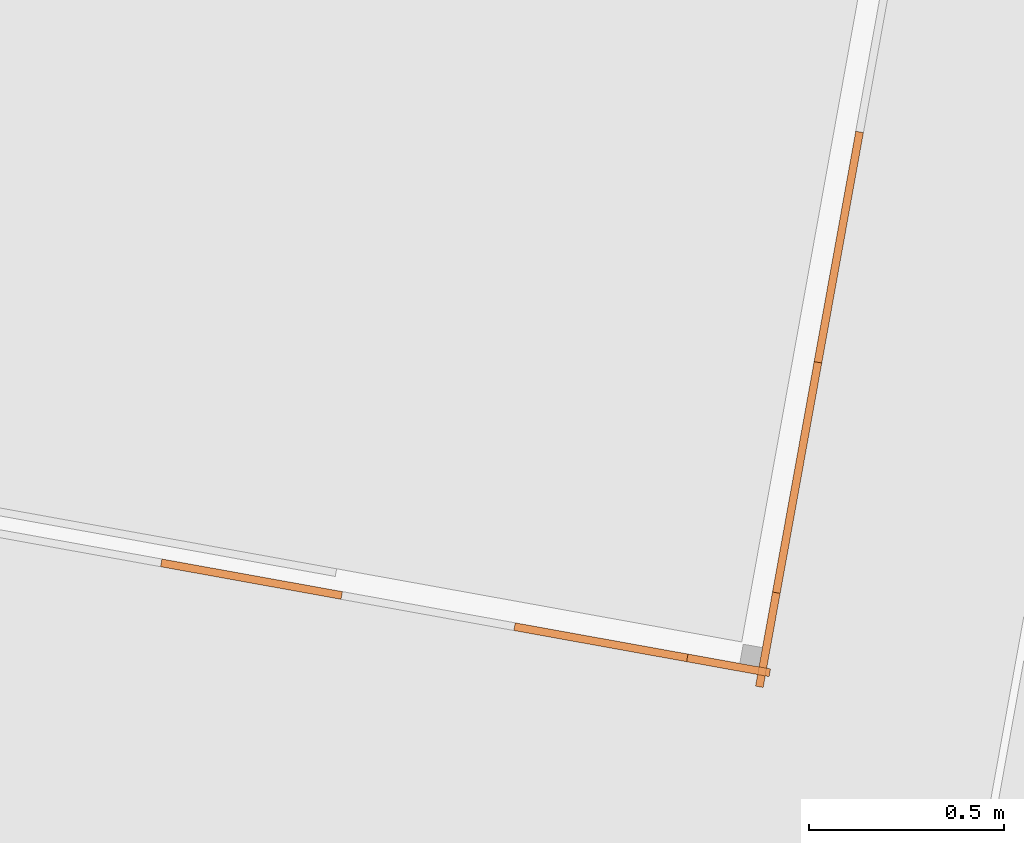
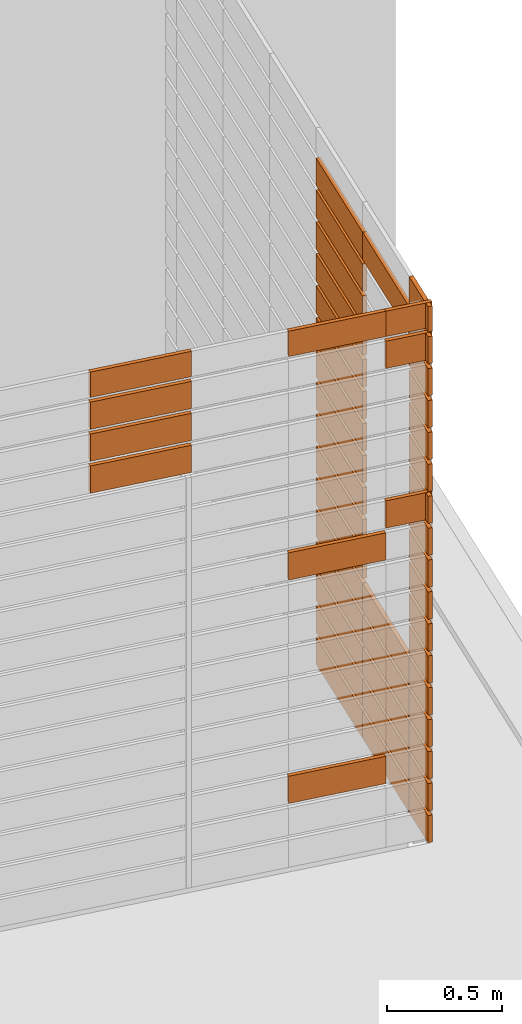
# One storey, part 30 of 52: 49 proxies, 2 elements without a shape of their own.
"""IFC2X3 building model written with IfcOpenShell, lengths in metres."""

import ifcopenshell
import ifcopenshell.guid

model = None  # the IFC model being written
_history = None  # IfcOwnerHistory: only IFC2X3 demands one
_inside = {}  # id of a spatial element -> (the spatial element, [elements in it])
_under = {}  # id of a project, library or spatial element -> (it, [spatial elements below it])
_declared = {}  # id of a project -> (the project, [libraries it declares])
_typed = {}  # id of a type object -> (the type object, [elements of that type])
_made_of = {}  # id of a material, layer set ... -> (it, [elements and type objects made of it])


def new_model(schema):
    """Start an empty IFC model of exactly this schema.

    Asked for "IFC4X3", IfcOpenShell would pick the latest addendum, in which some entities
    have other attributes; the version numbers below select the first issue.
    IFC2X3 requires an IfcOwnerHistory on every rooted entity: one is made here for all.
    """
    global model, _history
    if schema == "IFC4X3":
        model = ifcopenshell.file(schema_version=(4, 3, 0, 0))
    else:
        model = ifcopenshell.file(schema=schema)
    _inside.clear()
    _under.clear()
    _declared.clear()
    _typed.clear()
    _made_of.clear()
    _history = None
    if model.schema == "IFC2X3":
        org = make("IfcOrganization", Name="unknown")
        user = make(
            "IfcPersonAndOrganization",
            ThePerson=make("IfcPerson", FamilyName="unknown"),
            TheOrganization=org,
        )
        app = make(
            "IfcApplication",
            ApplicationDeveloper=org,
            Version="unknown",
            ApplicationFullName="unknown",
            ApplicationIdentifier="unknown",
        )
        _history = make(
            "IfcOwnerHistory",
            OwningUser=user,
            OwningApplication=app,
            ChangeAction="ADDED",
            CreationDate=0,
        )
    return model


def make(cls, **values):
    """One entity of the class cls with the attributes given. An attribute that is None is left unset."""
    return model.create_entity(
        cls, **{name: value for name, value in values.items() if value is not None}
    )


def entity(cls, *values):
    """Any entity or typed value of the class cls, its attributes in the order of the schema. None: left unset."""
    e = model.create_entity(cls)
    for i, value in enumerate(values):
        if value is not None:
            e[i] = value
    return e


def rooted(cls, **values):
    """An entity with a GlobalId (a new one), such as an element, a storey or a relation."""
    return make(cls, GlobalId=ifcopenshell.guid.new(), OwnerHistory=_history, **values)


def si_unit(unit_type, name, prefix=None):
    """IfcSIUnit, for example si_unit("LENGTHUNIT", "METRE", prefix="MILLI")."""
    return make("IfcSIUnit", UnitType=unit_type, Prefix=prefix, Name=name)


def converted_unit(unit_type, name, factor, base, dimensions=None, offset=None):
    """IfcConversionBasedUnit, such as the inch: factor (a typed value) times the base unit."""
    return make(
        "IfcConversionBasedUnit"
        if offset is None
        else "IfcConversionBasedUnitWithOffset",
        ConversionOffset=offset,
        Dimensions=None
        if dimensions is None
        else entity("IfcDimensionalExponents", *dimensions),
        UnitType=unit_type,
        Name=name,
        ConversionFactor=make(
            "IfcMeasureWithUnit", ValueComponent=factor, UnitComponent=base
        ),
    )


def derived_unit(unit_type, elements):
    """IfcDerivedUnit: a product of units, each with its exponent."""
    return make(
        "IfcDerivedUnit",
        Elements=[
            make("IfcDerivedUnitElement", Unit=unit, Exponent=power)
            for unit, power in elements
        ],
        UnitType=unit_type,
    )


def money_unit(currency):
    """IfcMonetaryUnit."""
    return make("IfcMonetaryUnit", Currency=currency)


def assignment(units):
    """IfcUnitAssignment: the units of a project."""
    return None if units is None else make("IfcUnitAssignment", Units=units)


def point(xyz):
    """IfcCartesianPoint."""
    return None if xyz is None else make("IfcCartesianPoint", Coordinates=xyz)


def direction(xyz):
    """IfcDirection."""
    return None if xyz is None else make("IfcDirection", DirectionRatios=xyz)


def frame(location, z_axis=None, x_axis=None):
    """IfcAxis2Placement3D, a coordinate frame: its origin and axes. An axis left out is left unset."""
    return make(
        "IfcAxis2Placement3D",
        Location=point(location),
        Axis=direction(z_axis),
        RefDirection=direction(x_axis),
    )


def origin_with_axes():
    """The frame at (0, 0, 0) with the z axis (0, 0, 1) and the x axis (1, 0, 0) written out."""
    return frame((0.0, 0.0, 0.0), z_axis=(0.0, 0.0, 1.0), x_axis=(1.0, 0.0, 0.0))


def place(relative_to, where):
    """IfcLocalPlacement: puts the frame where relative to a parent placement (None: the world)."""
    return make(
        "IfcLocalPlacement", PlacementRelTo=relative_to, RelativePlacement=where
    )


def context(
    kind, dimensions, precision=None, world=None, true_north=None, identifier=None
):
    """IfcGeometricRepresentationContext, for example the 3D "Model" context."""
    return make(
        "IfcGeometricRepresentationContext",
        ContextIdentifier=identifier,
        ContextType=kind,
        CoordinateSpaceDimension=dimensions,
        Precision=precision,
        WorldCoordinateSystem=world,
        TrueNorth=true_north,
    )


def subcontext(parent, identifier, kind, view, scale=None):
    """IfcGeometricRepresentationSubContext, for example "Body" below "Model"."""
    return make(
        "IfcGeometricRepresentationSubContext",
        ContextIdentifier=identifier,
        ContextType=kind,
        ParentContext=parent,
        TargetScale=scale,
        TargetView=view,
    )


def project(units=None, contexts=None):
    """IfcProject with its units and contexts."""
    return rooted(
        "IfcProject",
        Name="project",
        RepresentationContexts=contexts,
        UnitsInContext=assignment(units),
    )


def spatial(cls, under=None, at=None, **own):
    """A site, building, storey or space (cls), placed at a placement, below another one or the project."""
    s = rooted(cls, ObjectPlacement=at, **own)
    if under is not None:
        _under.setdefault(under.id(), (under, []))[1].append(s)
    return s


def polyline(points):
    """IfcPolyline through the points."""
    return make("IfcPolyline", Points=[point(p) for p in points])


def outline(outer, holes=None, kind="AREA"):
    """IfcArbitraryClosedProfileDef: a profile drawn as a closed curve; with holes, ...WithVoids."""
    if holes is None:
        return make("IfcArbitraryClosedProfileDef", ProfileType=kind, OuterCurve=outer)
    return make(
        "IfcArbitraryProfileDefWithVoids",
        ProfileType=kind,
        OuterCurve=outer,
        InnerCurves=holes,
    )


def extrude(swept, where, along, depth):
    """IfcExtrudedAreaSolid: the profile swept, set in the frame where, extruded along a direction by depth."""
    return make(
        "IfcExtrudedAreaSolid",
        SweptArea=swept,
        Position=where,
        ExtrudedDirection=direction(along),
        Depth=depth,
    )


def shape(context_of_items, identifier, shape_type, items):
    """IfcShapeRepresentation: the items that make up one representation, for example the "Body"."""
    return make(
        "IfcShapeRepresentation",
        ContextOfItems=context_of_items,
        RepresentationIdentifier=identifier,
        RepresentationType=shape_type,
        Items=items,
    )


def material(Name=None, Category=None):
    """IfcMaterial."""
    return make("IfcMaterial", Name=Name, Category=Category)


def made_of(thing, what):
    """Note that an element or type object is made of a material, layer set ...; save() writes the relation."""
    if what is not None:
        _made_of.setdefault(what.id(), (what, []))[1].append(thing)
    return thing


def type_object(cls, material=None, **own):
    """A type object (cls), such as IfcWallType, which elements share."""
    return made_of(rooted(cls, **own), material)


def element(
    cls,
    number,
    at=None,
    inside=None,
    cuts=None,
    type_object=None,
    material=None,
    context=None,
    identifier="Body",
    shape_type=None,
    held_by="IfcProductDefinitionShape",
    body=None,
    shapes=None,
    **own,
):
    """One element of the class cls, such as IfcWall. Its Tag is "e" and its number.

    at: its placement. inside: the storey or other place that contains it. cuts: it is an
    opening in that element (IfcRelVoidsElement). A single representation is given by context,
    identifier, shape_type and body (its items); several are given by shapes. held_by: the class
    of the entity that holds the representations. save() writes the other relations.
    """
    e = rooted(cls, Tag="e%d" % number, ObjectPlacement=at, **own)
    if body is not None:
        shapes = [shape(context, identifier, shape_type, body)]
    if shapes is not None:
        e.Representation = make(held_by, Representations=shapes)
    if inside is not None:
        _inside.setdefault(inside.id(), (inside, []))[1].append(e)
    if cuts is not None:
        rooted(
            "IfcRelVoidsElement", RelatingBuildingElement=cuts, RelatedOpeningElement=e
        )
    if type_object is not None:
        _typed.setdefault(type_object.id(), (type_object, []))[1].append(e)
    return made_of(e, material)


def aggregate(whole, parts):
    """IfcRelAggregates: a whole, such as a stair, and the parts it consists of."""
    return rooted("IfcRelAggregates", RelatingObject=whole, RelatedObjects=parts)


def save(model, path):
    """Write the relations noted so far, then the file.

    IfcRelAggregates (storeys below a building ...), IfcRelContainedInSpatialStructure (elements
    in a storey), IfcRelDefinesByType, IfcRelAssociatesMaterial and IfcRelDeclares: one each for
    every whole, place, type object, material and project.
    """
    for whole, parts in _under.values():
        aggregate(whole, parts)
    for where, things in _inside.values():
        rooted(
            "IfcRelContainedInSpatialStructure",
            RelatedElements=things,
            RelatingStructure=where,
        )
    for kind, things in _typed.values():
        rooted("IfcRelDefinesByType", RelatedObjects=things, RelatingType=kind)
    for what, things in _made_of.values():
        rooted("IfcRelAssociatesMaterial", RelatedObjects=things, RelatingMaterial=what)
    for by, libraries in _declared.values():
        rooted("IfcRelDeclares", RelatingContext=by, RelatedDefinitions=libraries)
    model.write(path)


model = new_model("IFC2X3")

# Units and contexts
model_context = context("Model", 3, precision=1e-05, world=origin_with_axes(), true_north=direction((0.0, 1.0)))
body_context = subcontext(model_context, "Body", "Model", "MODEL_VIEW")
ifc_project = project(units=[si_unit("LENGTHUNIT", "METRE"), si_unit("AREAUNIT", "SQUARE_METRE"), si_unit("VOLUMEUNIT", "CUBIC_METRE"), converted_unit("PLANEANGLEUNIT", "DEGREE", entity("IfcPlaneAngleMeasure", 0.0174532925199), si_unit("PLANEANGLEUNIT", "RADIAN"), dimensions=[0, 0, 0, 0, 0, 0, 0]), money_unit("CHF"), converted_unit("TIMEUNIT", "Year", entity("IfcTimeMeasure", 31556926.0), si_unit("TIMEUNIT", "SECOND"), dimensions=[0, 0, 1, 0, 0, 0, 0]), si_unit("MASSUNIT", "GRAM", prefix="KILO"), si_unit("THERMODYNAMICTEMPERATUREUNIT", "DEGREE_CELSIUS"), si_unit("LUMINOUSINTENSITYUNIT", "LUMEN"), si_unit("ENERGYUNIT", "JOULE", prefix="MEGA"), derived_unit("THERMALCONDUCTANCEUNIT", [(si_unit("POWERUNIT", "WATT"), 1), (si_unit("LENGTHUNIT", "METRE"), -1), (si_unit("THERMODYNAMICTEMPERATUREUNIT", "KELVIN"), -1)]), derived_unit("SPECIFICHEATCAPACITYUNIT", [(si_unit("ENERGYUNIT", "JOULE"), 1), (si_unit("MASSUNIT", "GRAM", prefix="KILO"), -1), (si_unit("THERMODYNAMICTEMPERATUREUNIT", "KELVIN"), -1)]), derived_unit("MASSDENSITYUNIT", [(si_unit("MASSUNIT", "GRAM", prefix="KILO"), 1), (si_unit("VOLUMEUNIT", "CUBIC_METRE"), -1)])], contexts=[model_context])

# Site, building, storey
site_placement = place(None, frame((0.0, 0.0, 0.0), z_axis=(0.0, 0.0, 1.0), x_axis=(-0.177771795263, -0.984071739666, 0.0)))
site = spatial("IfcSite", under=ifc_project, at=site_placement, Name="Site", CompositionType="ELEMENT")
building_placement = place(site_placement, origin_with_axes())
building = spatial("IfcBuilding", under=site, at=building_placement, Name="Bâtiment", CompositionType="ELEMENT")
storey_placement = place(building_placement, frame((0.0, 0.0, 3.2), z_axis=(0.0, 0.0, 1.0), x_axis=(1.0, 0.0, 0.0)))
storey = spatial("IfcBuildingStorey", under=building, at=storey_placement, Name="R+1", CompositionType="ELEMENT", Elevation=3.2)

# Curtain wall, proxies
curtain_wall_type = type_object("IfcCurtainWallType", Name="Type de mur-rideau", PredefinedType="NOTDEFINED")
curtain_wall_1_placement = place(storey_placement, frame((0.0, 0.0, -3.2), z_axis=(0.0, 0.0, 1.0), x_axis=(1.0, 0.0, 0.0)))
curtain_wall_1 = element("IfcCurtainWall", 1, at=curtain_wall_1_placement, inside=storey, type_object=curtain_wall_type, Name="pare-vue CTA")
ifc_material = material(Name="Matériau de construction IFC")
building_element_proxy_type_1 = type_object("IfcBuildingElementProxyType", Name="Panneau principal 450 x 170 x 20", PredefinedType="NOTDEFINED")
proxy_1_placement = place(curtain_wall_1_placement, frame((141.359841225, -149.592034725, 4.8275), z_axis=(0.0, 0.0, 1.0), x_axis=(-4.03758798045e-09, 1.0, 0.0)))
proxy_1 = element("IfcBuildingElementProxy", 2, at=proxy_1_placement, type_object=building_element_proxy_type_1, material=ifc_material, Name="Panel-Main-208", context=body_context, shape_type="SweptSolid", body=[
    extrude(outline(polyline([(-0.225, -0.0725), (0.225, -0.0725), (0.225, 0.0725000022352), (-0.225, 0.0725000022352), (-0.225, -0.0725)])), frame((0.0, -0.00999999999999, 0.0), z_axis=(0.0, 1.0, 0.0), x_axis=(1.0, 0.0, 0.0)), (0.0, 0.0, 1.0), 0.02),
])
proxy_2_placement = place(curtain_wall_1_placement, frame((141.359841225, -149.592034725, 3.6375), z_axis=(0.0, 0.0, 1.0), x_axis=(-4.03758798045e-09, 1.0, 0.0)))
proxy_2 = element("IfcBuildingElementProxy", 3, at=proxy_2_placement, type_object=building_element_proxy_type_1, material=ifc_material, Name="Panel-Main-208", context=body_context, shape_type="SweptSolid", body=[
    extrude(outline(polyline([(-0.225, -0.0725), (0.225, -0.0725), (0.225, 0.0725000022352), (-0.225, 0.0725000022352), (-0.225, -0.0725)])), frame((0.0, -0.00999999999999, 0.0), z_axis=(0.0, 1.0, 0.0), x_axis=(1.0, 0.0, 0.0)), (0.0, 0.0, 1.0), 0.02),
])
building_element_proxy_type_2 = type_object("IfcBuildingElementProxyType", Name="Panneau principal 470 x 170 x 20", PredefinedType="NOTDEFINED")
proxy_3_placement = place(curtain_wall_1_placement, frame((141.359841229, -150.502034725, 5.8475), z_axis=(0.0, 0.0, 1.0), x_axis=(-4.03763638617e-09, 1.0, 0.0)))
proxy_3 = element("IfcBuildingElementProxy", 4, at=proxy_3_placement, type_object=building_element_proxy_type_2, material=ifc_material, Name="Panel-Main-208", context=body_context, shape_type="SweptSolid", body=[
    extrude(outline(polyline([(-0.235, -0.0724999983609), (0.235, -0.0724999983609), (0.235, 0.0724999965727), (-0.235, 0.0724999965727), (-0.235, -0.0724999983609)])), frame((0.0, -0.00999999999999, 0.0), z_axis=(0.0, 1.0, 0.0), x_axis=(1.0, 0.0, 0.0)), (0.0, 0.0, 1.0), 0.02),
])
proxy_4_placement = place(curtain_wall_1_placement, frame((141.359841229, -150.502034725, 5.5075), z_axis=(0.0, 0.0, 1.0), x_axis=(-4.03763638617e-09, 1.0, 0.0)))
proxy_4 = element("IfcBuildingElementProxy", 5, at=proxy_4_placement, type_object=building_element_proxy_type_2, material=ifc_material, Name="Panel-Main-208", context=body_context, shape_type="SweptSolid", body=[
    extrude(outline(polyline([(-0.235, -0.0724999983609), (0.235, -0.0724999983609), (0.235, 0.0724999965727), (-0.235, 0.0724999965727), (-0.235, -0.0724999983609)])), frame((0.0, -0.00999999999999, 0.0), z_axis=(0.0, 1.0, 0.0), x_axis=(1.0, 0.0, 0.0)), (0.0, 0.0, 1.0), 0.02),
])
proxy_5_placement = place(curtain_wall_1_placement, frame((141.359841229, -150.502034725, 5.6775), z_axis=(0.0, 0.0, 1.0), x_axis=(-4.03763638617e-09, 1.0, 0.0)))
proxy_5 = element("IfcBuildingElementProxy", 6, at=proxy_5_placement, type_object=building_element_proxy_type_2, material=ifc_material, Name="Panel-Main-208", context=body_context, shape_type="SweptSolid", body=[
    extrude(outline(polyline([(-0.235, -0.0724999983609), (0.235, -0.0724999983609), (0.235, 0.0724999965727), (-0.235, 0.0724999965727), (-0.235, -0.0724999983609)])), frame((0.0, -0.00999999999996, 0.0), z_axis=(0.0, 1.0, 0.0), x_axis=(1.0, 0.0, 0.0)), (0.0, 0.0, 1.0), 0.02),
])
building_element_proxy_type_3 = type_object("IfcBuildingElementProxyType", Name="Panneau principal 215 x 170 x 20", PredefinedType="NOTDEFINED")
proxy_6_placement = place(curtain_wall_1_placement, frame((141.359841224, -149.25959289, 4.9975), z_axis=(0.0, 0.0, 1.0), x_axis=(-4.03763638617e-09, 1.0, 0.0)))
proxy_6 = element("IfcBuildingElementProxy", 7, at=proxy_6_placement, type_object=building_element_proxy_type_3, material=ifc_material, Name="Panel-Main-312", context=body_context, shape_type="SweptSolid", body=[
    extrude(outline(polyline([(-0.10744183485, -0.0724999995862), (0.107441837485, -0.0724999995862), (0.107441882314, 0.072499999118), (-0.10744183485, 0.072499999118), (-0.10744183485, -0.0724999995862)])), frame((0.0, -0.01, 0.0), z_axis=(0.0, 1.0, 0.0), x_axis=(1.0, 0.0, 0.0)), (0.0, 0.0, 1.0), 0.02),
])
proxy_7_placement = place(curtain_wall_1_placement, frame((141.359841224, -149.25959289, 5.8475), z_axis=(0.0, 0.0, 1.0), x_axis=(-4.03763638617e-09, 1.0, 0.0)))
proxy_7 = element("IfcBuildingElementProxy", 8, at=proxy_7_placement, type_object=building_element_proxy_type_3, material=ifc_material, Name="Panel-Main-317", context=body_context, shape_type="SweptSolid", body=[
    extrude(outline(polyline([(-0.10744183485, -0.0725000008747), (0.10744183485, -0.0725000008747), (0.10744183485, 0.0724999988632), (-0.10744183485, 0.0724999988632), (-0.10744183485, -0.0725000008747)])), frame((0.0, -0.01, 0.0), z_axis=(0.0, 1.0, 0.0), x_axis=(1.0, 0.0, 0.0)), (0.0, 0.0, 1.0), 0.02),
])
building_element_proxy_type_4 = type_object("IfcBuildingElementProxyType", Name="Panneau principal 470 x 147 x 20", PredefinedType="NOTDEFINED")
proxy_8_placement = place(curtain_wall_1_placement, frame((141.359841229, -150.502034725, 6.0062499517), z_axis=(0.0, 0.0, 1.0), x_axis=(-4.03763638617e-09, 1.0, 0.0)))
proxy_8 = element("IfcBuildingElementProxy", 9, at=proxy_8_placement, type_object=building_element_proxy_type_4, material=ifc_material, Name="Panel-Main-794", context=body_context, shape_type="SweptSolid", body=[
    extrude(outline(polyline([(-0.235, -0.0737499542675), (0.235, -0.0737499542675), (0.235, 0.0612499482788), (-0.235, 0.0612499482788), (-0.235, -0.0737499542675)])), frame((0.0, -0.00999999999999, 0.0), z_axis=(0.0, 1.0, 0.0), x_axis=(1.0, 0.0, 0.0)), (0.0, 0.0, 1.0), 0.02),
])
building_element_proxy_type_5 = type_object("IfcBuildingElementProxyType", Name="Panneau principal 450 x 147 x 20", PredefinedType="NOTDEFINED")
proxy_9_placement = place(curtain_wall_1_placement, frame((141.359841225, -149.592034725, 6.00624994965), z_axis=(0.0, 0.0, 1.0), x_axis=(-4.03758798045e-09, 1.0, 0.0)))
proxy_9 = element("IfcBuildingElementProxy", 10, at=proxy_9_placement, type_object=building_element_proxy_type_5, material=ifc_material, Name="Panel-Main-792", context=body_context, shape_type="SweptSolid", body=[
    extrude(outline(polyline([(-0.225, -0.0737499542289), (0.225, -0.0737499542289), (0.225, 0.0612499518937), (-0.225, 0.0612499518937), (-0.225, -0.0737499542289)])), frame((0.0, -0.00999999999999, 0.0), z_axis=(0.0, 1.0, 0.0), x_axis=(1.0, 0.0, 0.0)), (0.0, 0.0, 1.0), 0.02),
])
building_element_proxy_type_6 = type_object("IfcBuildingElementProxyType", Name="Panneau principal 215 x 147 x 20", PredefinedType="NOTDEFINED")
proxy_10_placement = place(curtain_wall_1_placement, frame((141.359841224, -149.25959289, 6.00624994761), z_axis=(0.0, 0.0, 1.0), x_axis=(-4.03763638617e-09, 1.0, 0.0)))
proxy_10 = element("IfcBuildingElementProxy", 11, at=proxy_10_placement, type_object=building_element_proxy_type_6, material=ifc_material, Name="Panel-Main-791", context=body_context, shape_type="SweptSolid", body=[
    extrude(outline(polyline([(-0.10744183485, -0.0737499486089), (0.10744183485, -0.0737499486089), (0.10744183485, 0.0612499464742), (-0.10744183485, 0.0612499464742), (-0.10744183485, -0.0737499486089)])), frame((0.0, -0.01, 0.0), z_axis=(0.0, 1.0, 0.0), x_axis=(1.0, 0.0, 0.0)), (0.0, 0.0, 1.0), 0.02),
])
aggregate(curtain_wall_1, [proxy_3, proxy_4, proxy_5, proxy_8, proxy_1, proxy_2, proxy_6, proxy_10, proxy_9, proxy_7])

curtain_wall_2_placement = place(storey_placement, frame((0.0, 0.0, -3.2), z_axis=(0.0, 0.0, 1.0), x_axis=(1.0, 0.0, 0.0)))
curtain_wall_2 = element("IfcCurtainWall", 12, at=curtain_wall_2_placement, inside=storey, type_object=curtain_wall_type, Name="pare-vue CTA")
building_element_proxy_type_7 = type_object("IfcBuildingElementProxyType", Name="Panneau principal 600 x 170 x 20", PredefinedType="NOTDEFINED")
proxy_11_placement = place(curtain_wall_2_placement, frame((140.254841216, -149.172151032, 3.8075), z_axis=(0.0, 0.0, 1.0), x_axis=(-1.0, 0.0, 0.0)))
proxy_11 = element("IfcBuildingElementProxy", 13, at=proxy_11_placement, type_object=building_element_proxy_type_7, material=ifc_material, Name="Panel-Main-492", context=body_context, shape_type="SweptSolid", body=[
    extrude(outline(polyline([(-0.3, -0.0725), (0.3, -0.0725), (0.3, 0.0725), (-0.3, 0.0725), (-0.3, -0.0725)])), frame((0.0, -0.00999999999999, 0.0), z_axis=(0.0, 1.0, 0.0), x_axis=(1.0, 0.0, 0.0)), (0.0, 0.0, 1.0), 0.02),
])
proxy_12_placement = place(curtain_wall_2_placement, frame((140.254841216, -149.172151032, 3.6375), z_axis=(0.0, 0.0, 1.0), x_axis=(-1.0, 0.0, 0.0)))
proxy_12 = element("IfcBuildingElementProxy", 14, at=proxy_12_placement, type_object=building_element_proxy_type_7, material=ifc_material, Name="Panel-Main-491", context=body_context, shape_type="SweptSolid", body=[
    extrude(outline(polyline([(-0.3, -0.0725), (0.3, -0.0725), (0.3, 0.0725), (-0.3, 0.0725), (-0.3, -0.0725)])), frame((0.0, -0.00999999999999, 0.0), z_axis=(0.0, 1.0, 0.0), x_axis=(1.0, 0.0, 0.0)), (0.0, 0.0, 1.0), 0.02),
])
proxy_13_placement = place(curtain_wall_2_placement, frame((140.254841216, -149.172151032, 3.4675), z_axis=(0.0, 0.0, 1.0), x_axis=(-1.0, 0.0, 0.0)))
proxy_13 = element("IfcBuildingElementProxy", 15, at=proxy_13_placement, type_object=building_element_proxy_type_7, material=ifc_material, Name="Panel-Main-490", context=body_context, shape_type="SweptSolid", body=[
    extrude(outline(polyline([(-0.3, -0.0725), (0.3, -0.0725), (0.3, 0.0725), (-0.3, 0.0725), (-0.3, -0.0725)])), frame((0.0, -0.00999999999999, 0.0), z_axis=(0.0, 1.0, 0.0), x_axis=(1.0, 0.0, 0.0)), (0.0, 0.0, 1.0), 0.02),
])
proxy_14_placement = place(curtain_wall_2_placement, frame((140.254841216, -149.172151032, 3.2975), z_axis=(0.0, 0.0, 1.0), x_axis=(-1.0, 0.0, 0.0)))
proxy_14 = element("IfcBuildingElementProxy", 16, at=proxy_14_placement, type_object=building_element_proxy_type_7, material=ifc_material, Name="Panel-Main-489", context=body_context, shape_type="SweptSolid", body=[
    extrude(outline(polyline([(-0.3, -0.0725), (0.3, -0.0725), (0.3, 0.0725), (-0.3, 0.0725), (-0.3, -0.0725)])), frame((0.0, -0.00999999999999, 0.0), z_axis=(0.0, 1.0, 0.0), x_axis=(1.0, 0.0, 0.0)), (0.0, 0.0, 1.0), 0.02),
])
proxy_15_placement = place(curtain_wall_2_placement, frame((140.254841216, -149.172151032, 3.9775), z_axis=(0.0, 0.0, 1.0), x_axis=(-1.0, 0.0, 0.0)))
proxy_15 = element("IfcBuildingElementProxy", 17, at=proxy_15_placement, type_object=building_element_proxy_type_7, material=ifc_material, Name="Panel-Main-493", context=body_context, shape_type="SweptSolid", body=[
    extrude(outline(polyline([(-0.3, -0.0725), (0.3, -0.0725), (0.3, 0.0725), (-0.3, 0.0725), (-0.3, -0.0725)])), frame((0.0, -0.00999999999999, 0.0), z_axis=(0.0, 1.0, 0.0), x_axis=(1.0, 0.0, 0.0)), (0.0, 0.0, 1.0), 0.02),
])
proxy_16_placement = place(curtain_wall_2_placement, frame((140.254841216, -149.172151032, 4.1475), z_axis=(0.0, 0.0, 1.0), x_axis=(-1.0, 0.0, 0.0)))
proxy_16 = element("IfcBuildingElementProxy", 18, at=proxy_16_placement, type_object=building_element_proxy_type_7, material=ifc_material, Name="Panel-Main-494", context=body_context, shape_type="SweptSolid", body=[
    extrude(outline(polyline([(-0.3, -0.0725), (0.3, -0.0725), (0.3, 0.0725), (-0.3, 0.0725), (-0.3, -0.0725)])), frame((0.0, -0.00999999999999, 0.0), z_axis=(0.0, 1.0, 0.0), x_axis=(1.0, 0.0, 0.0)), (0.0, 0.0, 1.0), 0.02),
])
proxy_17_placement = place(curtain_wall_2_placement, frame((140.254841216, -149.172151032, 4.3175), z_axis=(0.0, 0.0, 1.0), x_axis=(-1.0, 0.0, 0.0)))
proxy_17 = element("IfcBuildingElementProxy", 19, at=proxy_17_placement, type_object=building_element_proxy_type_7, material=ifc_material, Name="Panel-Main-495", context=body_context, shape_type="SweptSolid", body=[
    extrude(outline(polyline([(-0.3, -0.0725), (0.3, -0.0725), (0.3, 0.0725), (-0.3, 0.0725), (-0.3, -0.0725)])), frame((0.0, -0.00999999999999, 0.0), z_axis=(0.0, 1.0, 0.0), x_axis=(1.0, 0.0, 0.0)), (0.0, 0.0, 1.0), 0.02),
])
proxy_18_placement = place(curtain_wall_2_placement, frame((140.254841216, -149.172151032, 4.4875), z_axis=(0.0, 0.0, 1.0), x_axis=(-1.0, 0.0, 0.0)))
proxy_18 = element("IfcBuildingElementProxy", 20, at=proxy_18_placement, type_object=building_element_proxy_type_7, material=ifc_material, Name="Panel-Main-496", context=body_context, shape_type="SweptSolid", body=[
    extrude(outline(polyline([(-0.3, -0.0725), (0.3, -0.0725), (0.3, 0.0725), (-0.3, 0.0725), (-0.3, -0.0725)])), frame((0.0, -0.00999999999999, 0.0), z_axis=(0.0, 1.0, 0.0), x_axis=(1.0, 0.0, 0.0)), (0.0, 0.0, 1.0), 0.02),
])
proxy_19_placement = place(curtain_wall_2_placement, frame((140.254841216, -149.172151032, 4.6575), z_axis=(0.0, 0.0, 1.0), x_axis=(-1.0, 0.0, 0.0)))
proxy_19 = element("IfcBuildingElementProxy", 21, at=proxy_19_placement, type_object=building_element_proxy_type_7, material=ifc_material, Name="Panel-Main-497", context=body_context, shape_type="SweptSolid", body=[
    extrude(outline(polyline([(-0.3, -0.0725), (0.3, -0.0725), (0.3, 0.0725), (-0.3, 0.0725), (-0.3, -0.0725)])), frame((0.0, -0.00999999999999, 0.0), z_axis=(0.0, 1.0, 0.0), x_axis=(1.0, 0.0, 0.0)), (0.0, 0.0, 1.0), 0.02),
])
proxy_20_placement = place(curtain_wall_2_placement, frame((140.254841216, -149.172151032, 4.8275), z_axis=(0.0, 0.0, 1.0), x_axis=(-1.0, 0.0, 0.0)))
proxy_20 = element("IfcBuildingElementProxy", 22, at=proxy_20_placement, type_object=building_element_proxy_type_7, material=ifc_material, Name="Panel-Main-498", context=body_context, shape_type="SweptSolid", body=[
    extrude(outline(polyline([(-0.3, -0.0725), (0.3, -0.0725), (0.3, 0.0725), (-0.3, 0.0725), (-0.3, -0.0725)])), frame((0.0, -0.00999999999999, 0.0), z_axis=(0.0, 1.0, 0.0), x_axis=(1.0, 0.0, 0.0)), (0.0, 0.0, 1.0), 0.02),
])
proxy_21_placement = place(curtain_wall_2_placement, frame((140.254841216, -149.172151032, 4.9975), z_axis=(0.0, 0.0, 1.0), x_axis=(-1.0, 0.0, 0.0)))
proxy_21 = element("IfcBuildingElementProxy", 23, at=proxy_21_placement, type_object=building_element_proxy_type_7, material=ifc_material, Name="Panel-Main-499", context=body_context, shape_type="SweptSolid", body=[
    extrude(outline(polyline([(-0.3, -0.0725), (0.3, -0.0725), (0.3, 0.0725), (-0.3, 0.0725), (-0.3, -0.0725)])), frame((0.0, -0.00999999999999, 0.0), z_axis=(0.0, 1.0, 0.0), x_axis=(1.0, 0.0, 0.0)), (0.0, 0.0, 1.0), 0.02),
])
proxy_22_placement = place(curtain_wall_2_placement, frame((140.254841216, -149.172151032, 5.3375), z_axis=(0.0, 0.0, 1.0), x_axis=(-1.0, 0.0, 0.0)))
proxy_22 = element("IfcBuildingElementProxy", 24, at=proxy_22_placement, type_object=building_element_proxy_type_7, material=ifc_material, Name="Panel-Main-501", context=body_context, shape_type="SweptSolid", body=[
    extrude(outline(polyline([(-0.3, -0.0725), (0.3, -0.0725), (0.3, 0.0725), (-0.3, 0.0725), (-0.3, -0.0725)])), frame((0.0, -0.00999999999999, 0.0), z_axis=(0.0, 1.0, 0.0), x_axis=(1.0, 0.0, 0.0)), (0.0, 0.0, 1.0), 0.02),
])
proxy_23_placement = place(curtain_wall_2_placement, frame((140.254841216, -149.172151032, 5.5075), z_axis=(0.0, 0.0, 1.0), x_axis=(-1.0, 0.0, 0.0)))
proxy_23 = element("IfcBuildingElementProxy", 25, at=proxy_23_placement, type_object=building_element_proxy_type_7, material=ifc_material, Name="Panel-Main-502", context=body_context, shape_type="SweptSolid", body=[
    extrude(outline(polyline([(-0.3, -0.0725), (0.3, -0.0725), (0.3, 0.0725), (-0.3, 0.0725), (-0.3, -0.0725)])), frame((0.0, -0.00999999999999, 0.0), z_axis=(0.0, 1.0, 0.0), x_axis=(1.0, 0.0, 0.0)), (0.0, 0.0, 1.0), 0.02),
])
proxy_24_placement = place(curtain_wall_2_placement, frame((140.254841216, -149.172151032, 5.6775), z_axis=(0.0, 0.0, 1.0), x_axis=(-1.0, 0.0, 0.0)))
proxy_24 = element("IfcBuildingElementProxy", 26, at=proxy_24_placement, type_object=building_element_proxy_type_7, material=ifc_material, Name="Panel-Main-503", context=body_context, shape_type="SweptSolid", body=[
    extrude(outline(polyline([(-0.3, -0.0725), (0.3, -0.0725), (0.3, 0.0725), (-0.3, 0.0725), (-0.3, -0.0725)])), frame((0.0, -0.00999999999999, 0.0), z_axis=(0.0, 1.0, 0.0), x_axis=(1.0, 0.0, 0.0)), (0.0, 0.0, 1.0), 0.02),
])
proxy_25_placement = place(curtain_wall_2_placement, frame((140.254841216, -149.172151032, 5.8475), z_axis=(0.0, 0.0, 1.0), x_axis=(-1.0, 0.0, 0.0)))
proxy_25 = element("IfcBuildingElementProxy", 27, at=proxy_25_placement, type_object=building_element_proxy_type_7, material=ifc_material, Name="Panel-Main-504", context=body_context, shape_type="SweptSolid", body=[
    extrude(outline(polyline([(-0.3, -0.0725), (0.3, -0.0725), (0.3, 0.0725), (-0.3, 0.0725), (-0.3, -0.0725)])), frame((0.0, -0.00999999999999, 0.0), z_axis=(0.0, 1.0, 0.0), x_axis=(1.0, 0.0, 0.0)), (0.0, 0.0, 1.0), 0.02),
])
proxy_26_placement = place(curtain_wall_2_placement, frame((140.854841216, -149.172151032, 5.8475), z_axis=(0.0, 0.0, 1.0), x_axis=(-1.0, 0.0, 0.0)))
proxy_26 = element("IfcBuildingElementProxy", 28, at=proxy_26_placement, type_object=building_element_proxy_type_7, material=ifc_material, Name="Panel-Main-522", context=body_context, shape_type="SweptSolid", body=[
    extrude(outline(polyline([(-0.3, -0.0725), (0.3, -0.0725), (0.3, 0.0725), (-0.3, 0.0725), (-0.3, -0.0725)])), frame((0.0, -0.00999999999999, 0.0), z_axis=(0.0, 1.0, 0.0), x_axis=(1.0, 0.0, 0.0)), (0.0, 0.0, 1.0), 0.02),
])
proxy_27_placement = place(curtain_wall_2_placement, frame((140.854841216, -149.172151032, 3.2975), z_axis=(0.0, 0.0, 1.0), x_axis=(-1.0, 0.0, 0.0)))
proxy_27 = element("IfcBuildingElementProxy", 29, at=proxy_27_placement, type_object=building_element_proxy_type_7, material=ifc_material, Name="Panel-Main-507", context=body_context, shape_type="SweptSolid", body=[
    extrude(outline(polyline([(-0.3, -0.0725), (0.3, -0.0725), (0.3, 0.0725), (-0.3, 0.0725), (-0.3, -0.0725)])), frame((0.0, -0.00999999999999, 0.0), z_axis=(0.0, 1.0, 0.0), x_axis=(1.0, 0.0, 0.0)), (0.0, 0.0, 1.0), 0.02),
])
proxy_28_placement = place(curtain_wall_2_placement, frame((140.854841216, -149.172151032, 3.4675), z_axis=(0.0, 0.0, 1.0), x_axis=(-1.0, 0.0, 0.0)))
proxy_28 = element("IfcBuildingElementProxy", 30, at=proxy_28_placement, type_object=building_element_proxy_type_7, material=ifc_material, Name="Panel-Main-508", context=body_context, shape_type="SweptSolid", body=[
    extrude(outline(polyline([(-0.3, -0.0725), (0.3, -0.0725), (0.3, 0.0725), (-0.3, 0.0725), (-0.3, -0.0725)])), frame((0.0, -0.00999999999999, 0.0), z_axis=(0.0, 1.0, 0.0), x_axis=(1.0, 0.0, 0.0)), (0.0, 0.0, 1.0), 0.02),
])
proxy_29_placement = place(curtain_wall_2_placement, frame((140.854841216, -149.172151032, 3.6375), z_axis=(0.0, 0.0, 1.0), x_axis=(-1.0, 0.0, 0.0)))
proxy_29 = element("IfcBuildingElementProxy", 31, at=proxy_29_placement, type_object=building_element_proxy_type_7, material=ifc_material, Name="Panel-Main-509", context=body_context, shape_type="SweptSolid", body=[
    extrude(outline(polyline([(-0.3, -0.0725), (0.3, -0.0725), (0.3, 0.0725), (-0.3, 0.0725), (-0.3, -0.0725)])), frame((0.0, -0.00999999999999, 0.0), z_axis=(0.0, 1.0, 0.0), x_axis=(1.0, 0.0, 0.0)), (0.0, 0.0, 1.0), 0.02),
])
proxy_30_placement = place(curtain_wall_2_placement, frame((140.854841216, -149.172151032, 3.8075), z_axis=(0.0, 0.0, 1.0), x_axis=(-1.0, 0.0, 0.0)))
proxy_30 = element("IfcBuildingElementProxy", 32, at=proxy_30_placement, type_object=building_element_proxy_type_7, material=ifc_material, Name="Panel-Main-510", context=body_context, shape_type="SweptSolid", body=[
    extrude(outline(polyline([(-0.3, -0.0725), (0.3, -0.0725), (0.3, 0.0725), (-0.3, 0.0725), (-0.3, -0.0725)])), frame((0.0, -0.00999999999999, 0.0), z_axis=(0.0, 1.0, 0.0), x_axis=(1.0, 0.0, 0.0)), (0.0, 0.0, 1.0), 0.02),
])
proxy_31_placement = place(curtain_wall_2_placement, frame((140.854841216, -149.172151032, 3.9775), z_axis=(0.0, 0.0, 1.0), x_axis=(-1.0, 0.0, 0.0)))
proxy_31 = element("IfcBuildingElementProxy", 33, at=proxy_31_placement, type_object=building_element_proxy_type_7, material=ifc_material, Name="Panel-Main-511", context=body_context, shape_type="SweptSolid", body=[
    extrude(outline(polyline([(-0.3, -0.0725), (0.3, -0.0725), (0.3, 0.0725), (-0.3, 0.0725), (-0.3, -0.0725)])), frame((0.0, -0.00999999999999, 0.0), z_axis=(0.0, 1.0, 0.0), x_axis=(1.0, 0.0, 0.0)), (0.0, 0.0, 1.0), 0.02),
])
building_element_proxy_type_8 = type_object("IfcBuildingElementProxyType", Name="Panneau principal 245 x 170 x 20", PredefinedType="NOTDEFINED")
proxy_32_placement = place(curtain_wall_2_placement, frame((141.277341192, -149.172151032, 3.8075), z_axis=(0.0, 0.0, 1.0), x_axis=(-1.0, 0.0, 0.0)))
proxy_32 = element("IfcBuildingElementProxy", 34, at=proxy_32_placement, type_object=building_element_proxy_type_8, material=ifc_material, Name="Panel-Main-528", context=body_context, shape_type="SweptSolid", body=[
    extrude(outline(polyline([(-0.122499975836, -0.0725000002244), (0.122499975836, -0.0725000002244), (0.122499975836, 0.072500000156), (-0.122499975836, 0.072500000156), (-0.122499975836, -0.0725000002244)])), frame((0.0, -0.00999999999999, 0.0), z_axis=(0.0, 1.0, 0.0), x_axis=(1.0, 0.0, 0.0)), (0.0, 0.0, 1.0), 0.02),
])
proxy_33_placement = place(curtain_wall_2_placement, frame((141.277341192, -149.172151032, 5.6775), z_axis=(0.0, 0.0, 1.0), x_axis=(-1.0, 0.0, 0.0)))
proxy_33 = element("IfcBuildingElementProxy", 35, at=proxy_33_placement, type_object=building_element_proxy_type_8, material=ifc_material, Name="Panel-Main-539", context=body_context, shape_type="SweptSolid", body=[
    extrude(outline(polyline([(-0.122499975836, -0.0725000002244), (0.122499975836, -0.0725000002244), (0.122499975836, 0.072500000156), (-0.122499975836, 0.072500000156), (-0.122499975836, -0.0725000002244)])), frame((0.0, -0.00999999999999, 0.0), z_axis=(0.0, 1.0, 0.0), x_axis=(1.0, 0.0, 0.0)), (0.0, 0.0, 1.0), 0.02),
])
proxy_34_placement = place(curtain_wall_2_placement, frame((141.277341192, -149.172151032, 5.5075), z_axis=(0.0, 0.0, 1.0), x_axis=(-1.0, 0.0, 0.0)))
proxy_34 = element("IfcBuildingElementProxy", 36, at=proxy_34_placement, type_object=building_element_proxy_type_8, material=ifc_material, Name="Panel-Main-538", context=body_context, shape_type="SweptSolid", body=[
    extrude(outline(polyline([(-0.122499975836, -0.0725000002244), (0.122499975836, -0.0725000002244), (0.122499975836, 0.072500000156), (-0.122499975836, 0.072500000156), (-0.122499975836, -0.0725000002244)])), frame((0.0, -0.00999999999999, 0.0), z_axis=(0.0, 1.0, 0.0), x_axis=(1.0, 0.0, 0.0)), (0.0, 0.0, 1.0), 0.02),
])
proxy_35_placement = place(curtain_wall_2_placement, frame((141.277341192, -149.172151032, 4.6575), z_axis=(0.0, 0.0, 1.0), x_axis=(-1.0, 0.0, 0.0)))
proxy_35 = element("IfcBuildingElementProxy", 37, at=proxy_35_placement, type_object=building_element_proxy_type_8, material=ifc_material, Name="Panel-Main-533", context=body_context, shape_type="SweptSolid", body=[
    extrude(outline(polyline([(-0.122499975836, -0.0725000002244), (0.122499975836, -0.0725000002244), (0.122499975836, 0.072500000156), (-0.122499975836, 0.072500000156), (-0.122499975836, -0.0725000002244)])), frame((0.0, -0.00999999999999, 0.0), z_axis=(0.0, 1.0, 0.0), x_axis=(1.0, 0.0, 0.0)), (0.0, 0.0, 1.0), 0.02),
])
proxy_36_placement = place(curtain_wall_2_placement, frame((141.277341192, -149.172151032, 3.9775), z_axis=(0.0, 0.0, 1.0), x_axis=(-1.0, 0.0, 0.0)))
proxy_36 = element("IfcBuildingElementProxy", 38, at=proxy_36_placement, type_object=building_element_proxy_type_8, material=ifc_material, Name="Panel-Main-529", context=body_context, shape_type="SweptSolid", body=[
    extrude(outline(polyline([(-0.122499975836, -0.0725000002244), (0.122499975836, -0.0725000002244), (0.122499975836, 0.072500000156), (-0.122499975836, 0.072500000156), (-0.122499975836, -0.0725000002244)])), frame((0.0, -0.00999999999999, 0.0), z_axis=(0.0, 1.0, 0.0), x_axis=(1.0, 0.0, 0.0)), (0.0, 0.0, 1.0), 0.02),
])
proxy_37_placement = place(curtain_wall_2_placement, frame((141.277341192, -149.172151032, 4.4875), z_axis=(0.0, 0.0, 1.0), x_axis=(-1.0, 0.0, 0.0)))
proxy_37 = element("IfcBuildingElementProxy", 39, at=proxy_37_placement, type_object=building_element_proxy_type_8, material=ifc_material, Name="Panel-Main-532", context=body_context, shape_type="SweptSolid", body=[
    extrude(outline(polyline([(-0.122499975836, -0.0725000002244), (0.122499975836, -0.0725000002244), (0.122499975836, 0.072500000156), (-0.122499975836, 0.072500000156), (-0.122499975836, -0.0725000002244)])), frame((0.0, -0.00999999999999, 0.0), z_axis=(0.0, 1.0, 0.0), x_axis=(1.0, 0.0, 0.0)), (0.0, 0.0, 1.0), 0.02),
])
proxy_38_placement = place(curtain_wall_2_placement, frame((141.277341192, -149.172151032, 3.4675), z_axis=(0.0, 0.0, 1.0), x_axis=(-1.0, 0.0, 0.0)))
proxy_38 = element("IfcBuildingElementProxy", 40, at=proxy_38_placement, type_object=building_element_proxy_type_8, material=ifc_material, Name="Panel-Main-526", context=body_context, shape_type="SweptSolid", body=[
    extrude(outline(polyline([(-0.122499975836, -0.0725000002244), (0.122499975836, -0.0725000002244), (0.122499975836, 0.072500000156), (-0.122499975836, 0.072500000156), (-0.122499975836, -0.0725000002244)])), frame((0.0, -0.00999999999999, 0.0), z_axis=(0.0, 1.0, 0.0), x_axis=(1.0, 0.0, 0.0)), (0.0, 0.0, 1.0), 0.02),
])
proxy_39_placement = place(curtain_wall_2_placement, frame((141.277341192, -149.172151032, 4.9975), z_axis=(0.0, 0.0, 1.0), x_axis=(-1.0, 0.0, 0.0)))
proxy_39 = element("IfcBuildingElementProxy", 41, at=proxy_39_placement, type_object=building_element_proxy_type_8, material=ifc_material, Name="Panel-Main-535", context=body_context, shape_type="SweptSolid", body=[
    extrude(outline(polyline([(-0.122499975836, -0.0725000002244), (0.122499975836, -0.0725000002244), (0.122499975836, 0.072500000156), (-0.122499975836, 0.072500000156), (-0.122499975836, -0.0725000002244)])), frame((0.0, -0.00999999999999, 0.0), z_axis=(0.0, 1.0, 0.0), x_axis=(1.0, 0.0, 0.0)), (0.0, 0.0, 1.0), 0.02),
])
proxy_40_placement = place(curtain_wall_2_placement, frame((141.277341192, -149.172151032, 3.6375), z_axis=(0.0, 0.0, 1.0), x_axis=(-1.0, 0.0, 0.0)))
proxy_40 = element("IfcBuildingElementProxy", 42, at=proxy_40_placement, type_object=building_element_proxy_type_8, material=ifc_material, Name="Panel-Main-527", context=body_context, shape_type="SweptSolid", body=[
    extrude(outline(polyline([(-0.122499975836, -0.0725000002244), (0.122499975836, -0.0725000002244), (0.122499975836, 0.072500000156), (-0.122499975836, 0.072500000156), (-0.122499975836, -0.0725000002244)])), frame((0.0, -0.00999999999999, 0.0), z_axis=(0.0, 1.0, 0.0), x_axis=(1.0, 0.0, 0.0)), (0.0, 0.0, 1.0), 0.02),
])
proxy_41_placement = place(curtain_wall_2_placement, frame((141.277341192, -149.172151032, 4.3175), z_axis=(0.0, 0.0, 1.0), x_axis=(-1.0, 0.0, 0.0)))
proxy_41 = element("IfcBuildingElementProxy", 43, at=proxy_41_placement, type_object=building_element_proxy_type_8, material=ifc_material, Name="Panel-Main-531", context=body_context, shape_type="SweptSolid", body=[
    extrude(outline(polyline([(-0.122499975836, -0.0725000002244), (0.122499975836, -0.0725000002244), (0.122499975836, 0.072500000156), (-0.122499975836, 0.072500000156), (-0.122499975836, -0.0725000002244)])), frame((0.0, -0.00999999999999, 0.0), z_axis=(0.0, 1.0, 0.0), x_axis=(1.0, 0.0, 0.0)), (0.0, 0.0, 1.0), 0.02),
])
proxy_42_placement = place(curtain_wall_2_placement, frame((141.277341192, -149.172151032, 3.2975), z_axis=(0.0, 0.0, 1.0), x_axis=(-1.0, 0.0, 0.0)))
proxy_42 = element("IfcBuildingElementProxy", 44, at=proxy_42_placement, type_object=building_element_proxy_type_8, material=ifc_material, Name="Panel-Main-525", context=body_context, shape_type="SweptSolid", body=[
    extrude(outline(polyline([(-0.122499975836, -0.0725000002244), (0.122499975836, -0.0725000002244), (0.122499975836, 0.072500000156), (-0.122499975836, 0.072500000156), (-0.122499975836, -0.0725000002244)])), frame((0.0, -0.00999999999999, 0.0), z_axis=(0.0, 1.0, 0.0), x_axis=(1.0, 0.0, 0.0)), (0.0, 0.0, 1.0), 0.02),
])
proxy_43_placement = place(curtain_wall_2_placement, frame((141.277341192, -149.172151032, 4.8275), z_axis=(0.0, 0.0, 1.0), x_axis=(-1.0, 0.0, 0.0)))
proxy_43 = element("IfcBuildingElementProxy", 45, at=proxy_43_placement, type_object=building_element_proxy_type_8, material=ifc_material, Name="Panel-Main-534", context=body_context, shape_type="SweptSolid", body=[
    extrude(outline(polyline([(-0.122499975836, -0.0725000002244), (0.122499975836, -0.0725000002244), (0.122499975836, 0.072500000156), (-0.122499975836, 0.072500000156), (-0.122499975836, -0.0725000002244)])), frame((0.0, -0.00999999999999, 0.0), z_axis=(0.0, 1.0, 0.0), x_axis=(1.0, 0.0, 0.0)), (0.0, 0.0, 1.0), 0.02),
])
proxy_44_placement = place(curtain_wall_2_placement, frame((141.277341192, -149.172151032, 5.8475), z_axis=(0.0, 0.0, 1.0), x_axis=(-1.0, 0.0, 0.0)))
proxy_44 = element("IfcBuildingElementProxy", 46, at=proxy_44_placement, type_object=building_element_proxy_type_8, material=ifc_material, Name="Panel-Main-540", context=body_context, shape_type="SweptSolid", body=[
    extrude(outline(polyline([(-0.122499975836, -0.0725000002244), (0.122499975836, -0.0725000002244), (0.122499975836, 0.072500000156), (-0.122499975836, 0.072500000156), (-0.122499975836, -0.0725000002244)])), frame((0.0, -0.00999999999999, 0.0), z_axis=(0.0, 1.0, 0.0), x_axis=(1.0, 0.0, 0.0)), (0.0, 0.0, 1.0), 0.02),
])
proxy_45_placement = place(curtain_wall_2_placement, frame((141.277341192, -149.172151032, 4.1475), z_axis=(0.0, 0.0, 1.0), x_axis=(-1.0, 0.0, 0.0)))
proxy_45 = element("IfcBuildingElementProxy", 47, at=proxy_45_placement, type_object=building_element_proxy_type_8, material=ifc_material, Name="Panel-Main-530", context=body_context, shape_type="SweptSolid", body=[
    extrude(outline(polyline([(-0.122499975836, -0.0725000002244), (0.122499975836, -0.0725000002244), (0.122499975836, 0.072500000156), (-0.122499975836, 0.072500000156), (-0.122499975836, -0.0725000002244)])), frame((0.0, -0.00999999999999, 0.0), z_axis=(0.0, 1.0, 0.0), x_axis=(1.0, 0.0, 0.0)), (0.0, 0.0, 1.0), 0.02),
])
proxy_46_placement = place(curtain_wall_2_placement, frame((141.277341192, -149.172151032, 5.3375), z_axis=(0.0, 0.0, 1.0), x_axis=(-1.0, 0.0, 0.0)))
proxy_46 = element("IfcBuildingElementProxy", 48, at=proxy_46_placement, type_object=building_element_proxy_type_8, material=ifc_material, Name="Panel-Main-537", context=body_context, shape_type="SweptSolid", body=[
    extrude(outline(polyline([(-0.122499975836, -0.0725000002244), (0.122499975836, -0.0725000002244), (0.122499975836, 0.072500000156), (-0.122499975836, 0.072500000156), (-0.122499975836, -0.0725000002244)])), frame((0.0, -0.00999999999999, 0.0), z_axis=(0.0, 1.0, 0.0), x_axis=(1.0, 0.0, 0.0)), (0.0, 0.0, 1.0), 0.02),
])
building_element_proxy_type_9 = type_object("IfcBuildingElementProxyType", Name="600 x 170 x 20", PredefinedType="NOTDEFINED")
proxy_47_placement = place(curtain_wall_2_placement, frame((140.254841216, -149.172151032, 5.1675), z_axis=(0.0, 0.0, 1.0), x_axis=(-1.0, 0.0, 0.0)))
proxy_47 = element("IfcBuildingElementProxy", 49, at=proxy_47_placement, type_object=building_element_proxy_type_9, material=ifc_material, Name="Panel-Main-190", context=body_context, shape_type="SweptSolid", body=[
    extrude(outline(polyline([(-0.3, -0.0725), (0.3, -0.0725), (0.3, 0.0725), (-0.3, 0.0725), (-0.3, -0.0725)])), frame((0.0, -0.00999999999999, 0.0), z_axis=(0.0, 1.0, 0.0), x_axis=(1.0, 0.0, 0.0)), (0.0, 0.0, 1.0), 0.02),
])
building_element_proxy_type_10 = type_object("IfcBuildingElementProxyType", Name="245 x 170 x 20", PredefinedType="NOTDEFINED")
proxy_48_placement = place(curtain_wall_2_placement, frame((141.277341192, -149.172151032, 5.1675), z_axis=(0.0, 0.0, 1.0), x_axis=(-1.0, 0.0, 0.0)))
proxy_48 = element("IfcBuildingElementProxy", 50, at=proxy_48_placement, type_object=building_element_proxy_type_10, material=ifc_material, Name="Panel-Main-190", context=body_context, shape_type="SweptSolid", body=[
    extrude(outline(polyline([(-0.122499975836, -0.0725000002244), (0.122499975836, -0.0725000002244), (0.122499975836, 0.072500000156), (-0.122499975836, 0.072500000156), (-0.122499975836, -0.0725000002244)])), frame((0.0, -0.00999999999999, 0.0), z_axis=(0.0, 1.0, 0.0), x_axis=(1.0, 0.0, 0.0)), (0.0, 0.0, 1.0), 0.02),
])
building_element_proxy_type_11 = type_object("IfcBuildingElementProxyType", Name="Panneau principal 245 x 147 x 20", PredefinedType="NOTDEFINED")
proxy_49_placement = place(curtain_wall_2_placement, frame((141.277341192, -149.172151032, 6.0062499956), z_axis=(0.0, 0.0, 1.0), x_axis=(-1.0, 0.0, 0.0)))
proxy_49 = element("IfcBuildingElementProxy", 51, at=proxy_49_placement, type_object=building_element_proxy_type_11, material=ifc_material, Name="Panel-Main-231", context=body_context, shape_type="SweptSolid", body=[
    extrude(outline(polyline([(-0.122499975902, -0.0737499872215), (0.12249997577, -0.0737500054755), (0.12249997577, 0.0612499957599), (-0.122499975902, 0.0612499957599), (-0.122499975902, -0.0737499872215)])), frame((0.0, -0.00999999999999, 0.0), z_axis=(0.0, 1.0, 0.0), x_axis=(1.0, 0.0, 0.0)), (0.0, 0.0, 1.0), 0.02),
])
aggregate(curtain_wall_2, [proxy_32, proxy_11, proxy_12, proxy_13, proxy_33, proxy_14, proxy_34, proxy_35, proxy_36, proxy_37, proxy_38, proxy_15, proxy_16, proxy_17, proxy_18, proxy_19, proxy_20, proxy_21, proxy_47, proxy_22, proxy_23, proxy_24, proxy_25, proxy_26, proxy_39, proxy_27, proxy_28, proxy_29, proxy_30, proxy_31, proxy_48, proxy_40, proxy_41, proxy_42, proxy_43, proxy_44, proxy_45, proxy_46, proxy_49])

save(model, "model.ifc")
